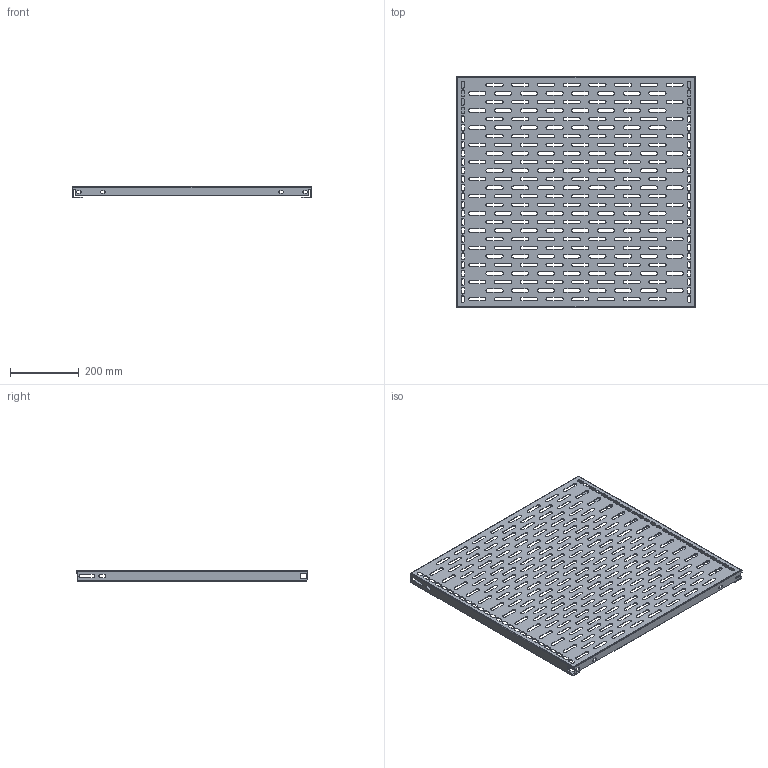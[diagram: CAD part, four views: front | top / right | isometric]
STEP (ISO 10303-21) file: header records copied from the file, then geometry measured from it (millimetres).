
FILE_DESCRIPTION (( 'STEP AP203' ), '1' );
FILE_NAME ('EUDO-080070.STEP', '2015-04-22T11:54:06', ( 'Admin' ), ( '' ), 'SwSTEP 2.0', 'SolidWorks 2014', '' );
FILE_SCHEMA (( 'CONFIG_CONTROL_DESIGN' ));
Length unit declared in the file: millimetre
Products named in the file (1): EUDO-080070
Bounding box: 696 x 673 x 33 mm (x, y, z)
Volume: 672158.4 mm3; surface area: 946579.6 mm2
Topology: 1 solids, 1 shells, 1512 faces, 4518 edges, 3008 vertices
Faces by surface type: cylinder 846, plane 666
Entity records: 52755 total; most frequent: DIRECTION 9224, CARTESIAN_POINT 9051, ORIENTED_EDGE 9036, EDGE_CURVE 4518, AXIS2_PLACEMENT_3D 3197, VERTEX_POINT 3008, VECTOR 2830, LINE 2830
